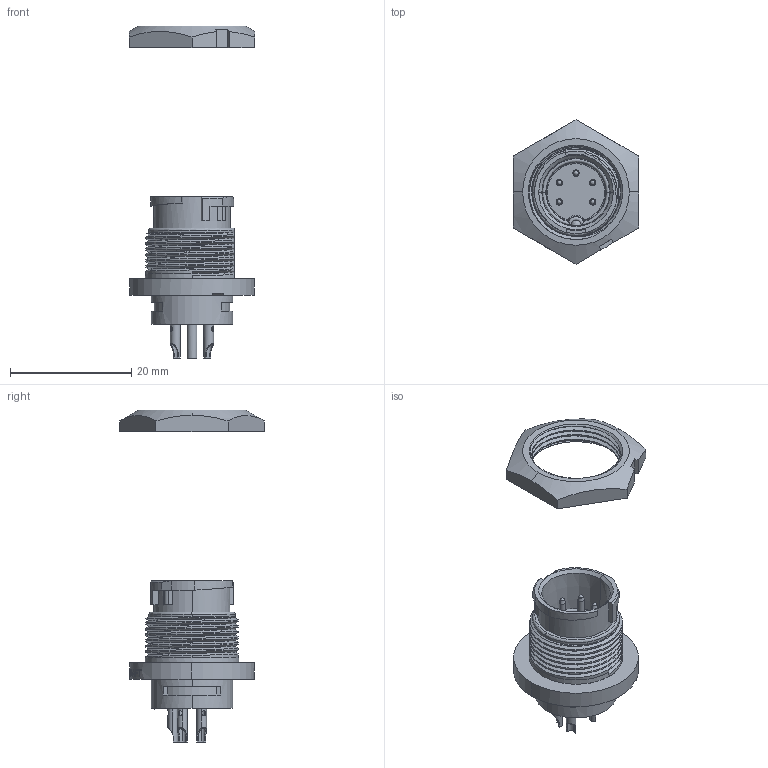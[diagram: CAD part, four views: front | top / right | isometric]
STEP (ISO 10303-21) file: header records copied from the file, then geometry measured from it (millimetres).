
FILE_DESCRIPTION (( 'STEP AP214' ), '1' );
FILE_NAME ('EN3P5MX.STEP', '2014-07-02T20:21:26', ( '' ), ( '' ), 'SwSTEP 2.0', 'SolidWorks 2014', '' );
FILE_SCHEMA (( 'AUTOMOTIVE_DESIGN' ));
Length unit declared in the file: inch
Products named in the file (1): EN3P5MX
Bounding box: 20.64 x 23.83 x 54.79 mm (x, y, z)
Volume: 3477.2 mm3; surface area: 3405.9 mm2
Topology: 2 solids, 2 shells, 466 faces, 1294 edges, 855 vertices
Faces by surface type: plane 161, cylinder 138, bspline 124, cone 33, torus 10
Entity records: 32927 total; most frequent: CARTESIAN_POINT 21602, ORIENTED_EDGE 2586, DIRECTION 1804, EDGE_CURVE 1293, VERTEX_POINT 855, AXIS2_PLACEMENT_3D 628, LINE 548, VECTOR 548
